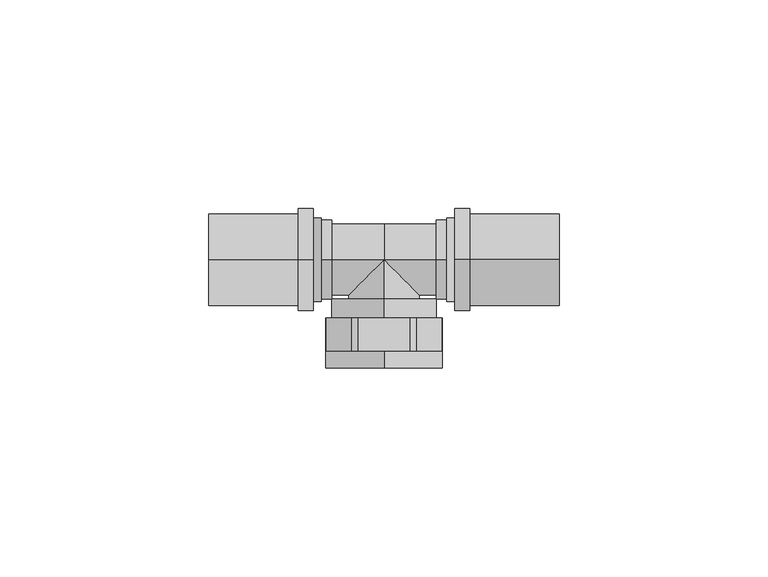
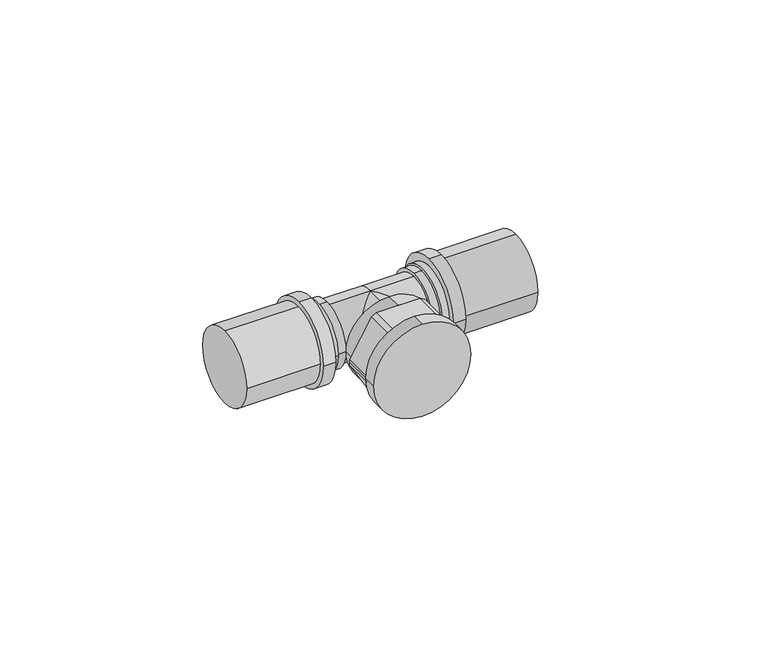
"""IFC4 building model written with IfcOpenShell, lengths in millimetres: pipe fitting geometry, HC-Kształtka-ParaForma-Tweetop-PERT-Trójnik_GW : Tweetop."""

from ifc_helpers import new_model, si_unit, point, frame, origin, origin_2d, place, context, project, spatial, circle_curve, ellipse_curve, trimmed, segment, composite_curve, outline, extrude, source, transform, mapped, element, save
from ifc_brep_helpers import plane_surface, cylinder_surface, advanced_brep


def pipe_fitting_013305a4(model_context):
    return source(origin(), model_context, "Body", "SolidModel", [
        advanced_brep(
        [(15.0, 10.0, 0.0), (15.0, -10.0, 0.0), (20.5, -12.25, 0.0), (20.5, 0.0, 12.25), (17.0, 0.0, 12.25), (17.0, -12.25, 0.0), (20.5, 12.25, 0.0), (20.5, 0.0, -12.25), (17.0, 0.0, -12.25), (17.0, 12.25, 0.0), (17.0, -10.0, 0.0), (17.0, 10.0, 0.0)],
        [
            (0, 1, circle_curve(frame((15.0, 0.0, 0.0), z_axis=(-1.0, 0.0, 0.0), x_axis=(0.0, 1.0000000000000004, 0.0)), 10.0)),
            (1, 0, circle_curve(frame((15.0, 0.0, 0.0), z_axis=(-1.0, 0.0, 0.0), x_axis=(0.0, 1.0000000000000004, 0.0)), 10.0)),
            (2, 3, circle_curve(frame((20.5, 0.0, 0.0), z_axis=(-1.0, 0.0, 0.0), x_axis=(0.0, 1.0000000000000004, 0.0)), 12.25)),
            (3, 4),
            (4, 5, circle_curve(frame((17.0, 0.0, 0.0), z_axis=(1.0, 0.0, 0.0), x_axis=(0.0, 1.0000000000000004, 0.0)), 12.25)),
            (5, 2),
            (6, 7, circle_curve(frame((20.5, 0.0, 0.0), z_axis=(-1.0, 0.0, 0.0), x_axis=(0.0, 1.0000000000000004, 0.0)), 12.25)),
            (7, 8),
            (8, 9, circle_curve(frame((17.0, 0.0, 0.0), z_axis=(1.0, 0.0, 0.0), x_axis=(0.0, 1.0000000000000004, 0.0)), 12.25)),
            (9, 6),
            (3, 6, circle_curve(frame((20.5, 0.0, 0.0), z_axis=(-1.0, 0.0, 0.0), x_axis=(0.0, 1.0000000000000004, 0.0)), 12.25)),
            (9, 4, circle_curve(frame((17.0, 0.0, 0.0), z_axis=(1.0, 0.0, 0.0), x_axis=(0.0, 1.0000000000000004, 0.0)), 12.25)),
            (7, 2, circle_curve(frame((20.5, 0.0, 0.0), z_axis=(-1.0, 0.0, 0.0), x_axis=(0.0, 1.0000000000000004, 0.0)), 12.25)),
            (5, 8, circle_curve(frame((17.0, 0.0, 0.0), z_axis=(1.0, 0.0, 0.0), x_axis=(0.0, 1.0000000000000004, 0.0)), 12.25)),
            (10, 11, circle_curve(frame((17.0, 0.0, 0.0), z_axis=(1.0, 0.0, 0.0), x_axis=(0.0, 1.0000000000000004, 0.0)), 10.0)),
            (11, 10, circle_curve(frame((17.0, 0.0, 0.0), z_axis=(1.0, 0.0, 0.0), x_axis=(0.0, 1.0000000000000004, 0.0)), 10.0)),
            (10, 1),
            (0, 11),
        ],
        [
            plane_surface(frame((15.0, 0.0, 0.0), z_axis=(-1.0, 0.0, 0.0), x_axis=(0.0, 0.0, 1.0))),
            cylinder_surface(frame((15.0, 0.0, 0.0), z_axis=(-1.0000000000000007, 0.0, 0.0), x_axis=(0.0, 1.0000000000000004, 0.0)), 12.25),
            plane_surface(frame((20.5, 0.0, 0.0), z_axis=(1.0, 0.0, 0.0), x_axis=(0.0, 0.0, 1.0))),
            plane_surface(frame((17.0, 0.0, 0.0), z_axis=(-1.0, 0.0, 0.0), x_axis=(0.0, 0.0, 1.0))),
            cylinder_surface(frame((15.0, 0.0, 0.0), z_axis=(1.0000000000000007, 0.0, 0.0), x_axis=(0.0, 1.0000000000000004, 0.0)), 10.0),
        ],
        [
            (0, [[1, 2]]),
            (1, [[3, 4, 5, 6]]),
            (1, [[7, 8, 9, 10]]),
            (1, [[11, -10, 12, -4]]),
            (1, [[13, -6, 14, -8]]),
            (2, [[-3, -13, -7, -11]]),
            (3, [[-5, -12, -9, -14], [15, 16]]),
            (4, [[-15, 17, -1, 18]]),
            (4, [[-16, -18, -2, -17]]),
        ],
    ),
        extrude(outline(composite_curve([segment(trimmed(circle_curve(origin_2d(), 10.95), [point((0.0, 10.95))], [point((10.95, 0.0))], False, "CARTESIAN"), True, "CONTINUOUS"), segment(trimmed(circle_curve(origin_2d(), 10.95), [point((10.95, 0.0))], [point((0.0, -10.95))], False, "CARTESIAN"), True, "CONTINUOUS"), segment(trimmed(circle_curve(origin_2d(), 10.95), [point((0.0, -10.95))], [point((-10.95, 0.0))], False, "CARTESIAN"), True, "CONTINUOUS"), segment(trimmed(circle_curve(origin_2d(), 10.95), [point((-10.95, 0.0))], [point((0.0, 10.95))], False, "CARTESIAN"), True, "CONTINUOUS")], self_intersect=False)), frame((20.5, 0.0, 0.0), z_axis=(1.0, 0.0, 0.0), x_axis=(0.0, 1.0, 0.0)), (0.0, 0.0, 1.0), 21.5),
        advanced_brep(
        [(6.3047601, -14.0, -12.5), (-6.3047601, -14.0, -12.5), (-7.6729375, -14.0, -11.7100824), (-13.9776976, -14.0, -0.7899176), (-14.0, -14.0, 0.0), (-13.9776976, -14.0, 0.7899176), (-7.6729375, -14.0, 11.7100824), (-6.3047601, -14.0, 12.5), (6.3047601, -14.0, 12.5), (7.6729375, -14.0, 11.7100824), (13.9776976, -14.0, 0.7899176), (14.0, -14.0, 0.0), (13.9776976, -14.0, -0.7899176), (7.6729375, -14.0, -11.7100824), (0.0, -22.0, -14.0), (-6.3047601, -22.0, -12.5), (6.3047601, -22.0, -12.5), (-7.6729375, -22.0, -11.7100824), (-13.9776976, -22.0, -0.7899176), (-13.9776976, -22.0, 0.7899176), (-7.6729375, -22.0, 11.7100824), (0.0, -22.0, 14.0), (6.3047601, -22.0, 12.5), (-6.3047601, -22.0, 12.5), (7.6729375, -22.0, 11.7100824), (13.9776976, -22.0, 0.7899176), (13.9776976, -22.0, -0.7899176), (7.6729375, -22.0, -11.7100824), (0.0, -26.0, 14.0), (-14.0, -26.0, 0.0), (0.0, -26.0, -14.0), (14.0, -26.0, 0.0), (-14.0, -22.0, 0.0), (14.0, -22.0, 0.0)],
        [
            (0, 1),
            (1, 2, circle_curve(frame((0.0, -14.0, 0.0), z_axis=(0.0, 1.0, 0.0), x_axis=(1.0000000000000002, 0.0, 0.0)), 14.0)),
            (2, 3),
            (3, 4, circle_curve(frame((0.0, -14.0, 0.0), z_axis=(0.0, 1.0, 0.0), x_axis=(1.0000000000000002, 0.0, 0.0)), 14.0)),
            (4, 5, circle_curve(frame((0.0, -14.0, 0.0), z_axis=(0.0, 1.0, 0.0), x_axis=(1.0000000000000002, 0.0, 0.0)), 14.0)),
            (5, 6),
            (6, 7, circle_curve(frame((0.0, -14.0, 0.0), z_axis=(0.0, 1.0, 0.0), x_axis=(1.0000000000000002, 0.0, 0.0)), 14.0)),
            (7, 8),
            (8, 9, circle_curve(frame((0.0, -14.0, 0.0), z_axis=(0.0, 1.0, 0.0), x_axis=(1.0000000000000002, 0.0, 0.0)), 14.0)),
            (9, 10),
            (10, 11, circle_curve(frame((0.0, -14.0, 0.0), z_axis=(0.0, 1.0, 0.0), x_axis=(1.0000000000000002, 0.0, 0.0)), 14.0)),
            (11, 12, circle_curve(frame((0.0, -14.0, 0.0), z_axis=(0.0, 1.0, 0.0), x_axis=(1.0000000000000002, 0.0, 0.0)), 14.0)),
            (12, 13),
            (13, 0, circle_curve(frame((0.0, -14.0, 0.0), z_axis=(0.0, 1.0, 0.0), x_axis=(1.0000000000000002, 0.0, 0.0)), 14.0)),
            (14, 15, circle_curve(frame((0.0, -22.0, 0.0), z_axis=(0.0, 1.0, 0.0), x_axis=(1.0000000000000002, 0.0, 0.0)), 14.0)),
            (15, 16),
            (16, 14, circle_curve(frame((0.0, -22.0, 0.0), z_axis=(0.0, 1.0, 0.0), x_axis=(1.0000000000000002, 0.0, 0.0)), 14.0)),
            (17, 18, circle_curve(frame((0.0, -22.0, 0.0), z_axis=(0.0, 1.0, 0.0), x_axis=(1.0000000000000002, 0.0, 0.0)), 14.0)),
            (18, 17),
            (19, 20, circle_curve(frame((0.0, -22.0, 0.0), z_axis=(0.0, 1.0, 0.0), x_axis=(1.0000000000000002, 0.0, 0.0)), 14.0)),
            (20, 19),
            (21, 22, circle_curve(frame((0.0, -22.0, 0.0), z_axis=(0.0, 1.0, 0.0), x_axis=(1.0000000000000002, 0.0, 0.0)), 14.0)),
            (22, 23),
            (23, 21, circle_curve(frame((0.0, -22.0, 0.0), z_axis=(0.0, 1.0, 0.0), x_axis=(1.0000000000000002, 0.0, 0.0)), 14.0)),
            (24, 25, circle_curve(frame((0.0, -22.0, 0.0), z_axis=(0.0, 1.0, 0.0), x_axis=(1.0000000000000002, 0.0, 0.0)), 14.0)),
            (25, 24),
            (26, 27, circle_curve(frame((0.0, -22.0, 0.0), z_axis=(0.0, 1.0, 0.0), x_axis=(1.0000000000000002, 0.0, 0.0)), 14.0)),
            (27, 26),
            (28, 29, circle_curve(frame((0.0, -26.0, 0.0), z_axis=(0.0, -1.0, 0.0), x_axis=(1.0000000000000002, 0.0, 0.0)), 14.0)),
            (29, 30, circle_curve(frame((0.0, -26.0, 0.0), z_axis=(0.0, -1.0, 0.0), x_axis=(1.0000000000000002, 0.0, 0.0)), 14.0)),
            (30, 31, circle_curve(frame((0.0, -26.0, 0.0), z_axis=(0.0, -1.0, 0.0), x_axis=(1.0000000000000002, 0.0, 0.0)), 14.0)),
            (31, 28, circle_curve(frame((0.0, -26.0, 0.0), z_axis=(0.0, -1.0, 0.0), x_axis=(1.0000000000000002, 0.0, 0.0)), 14.0)),
            (28, 21),
            (23, 20, circle_curve(frame((0.0, -22.0, 0.0), z_axis=(0.0, -1.0, 0.0), x_axis=(1.0000000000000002, 0.0, 0.0)), 14.0)),
            (19, 32, circle_curve(frame((0.0, -22.0, 0.0), z_axis=(0.0, -1.0, 0.0), x_axis=(1.0000000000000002, 0.0, 0.0)), 14.0)),
            (32, 29),
            (30, 14),
            (16, 27, circle_curve(frame((0.0, -22.0, 0.0), z_axis=(0.0, -1.0, 0.0), x_axis=(1.0000000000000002, 0.0, 0.0)), 14.0)),
            (26, 33, circle_curve(frame((0.0, -22.0, 0.0), z_axis=(0.0, -1.0, 0.0), x_axis=(1.0000000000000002, 0.0, 0.0)), 14.0)),
            (33, 31),
            (33, 25, circle_curve(frame((0.0, -22.0, 0.0), z_axis=(0.0, -1.0, 0.0), x_axis=(1.0000000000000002, 0.0, 0.0)), 14.0)),
            (24, 22, circle_curve(frame((0.0, -22.0, 0.0), z_axis=(0.0, -1.0, 0.0), x_axis=(1.0000000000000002, 0.0, 0.0)), 14.0)),
            (32, 18, circle_curve(frame((0.0, -22.0, 0.0), z_axis=(0.0, -1.0, 0.0), x_axis=(1.0000000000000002, 0.0, 0.0)), 14.0)),
            (17, 15, circle_curve(frame((0.0, -22.0, 0.0), z_axis=(0.0, -1.0, 0.0), x_axis=(1.0000000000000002, 0.0, 0.0)), 14.0)),
            (1, 15),
            (17, 2),
            (13, 27),
            (16, 0),
            (32, 4),
            (3, 18),
            (11, 33),
            (26, 12),
            (6, 20),
            (23, 7),
            (8, 22),
            (24, 9),
            (19, 5),
            (10, 25),
        ],
        [
            plane_surface(frame((0.0, -14.0, 0.0), z_axis=(0.0, 1.0, 0.0), x_axis=(0.0, 0.0, 1.0))),
            plane_surface(frame((0.0, -22.0, 0.0), z_axis=(0.0, 1.0, 0.0), x_axis=(0.0, 0.0, 1.0))),
            plane_surface(frame((0.0, -26.0, 0.0), z_axis=(0.0, -1.0, 0.0), x_axis=(0.0, 0.0, 1.0))),
            cylinder_surface(frame((0.0, -22.0, 0.0), z_axis=(0.0, 1.0000000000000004, 0.0), x_axis=(1.0000000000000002, 0.0, 0.0)), 14.0),
            cylinder_surface(frame((0.0, -14.0, 0.0), z_axis=(0.0, -1.0000000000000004, 0.0), x_axis=(1.0000000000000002, 0.0, 0.0)), 14.0),
            plane_surface(frame((7.2168784, -14.0, -12.5), z_axis=(0.0, 0.0, -1.0), x_axis=(0.0, -1.0, 0.0))),
            plane_surface(frame((-7.2168784, -14.0, -12.5), z_axis=(-0.8660254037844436, 0.0, -0.49999999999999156), x_axis=(0.0, -1.0, 0.0))),
            plane_surface(frame((-14.4337567, -14.0, 0.0), z_axis=(-0.8660254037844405, 0.0, 0.4999999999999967), x_axis=(0.0, -1.0, 0.0))),
            plane_surface(frame((-7.2168784, -14.0, 12.5), z_axis=(0.0, 0.0, 1.0), x_axis=(0.0, -1.0, 0.0))),
            plane_surface(frame((7.2168784, -14.0, 12.5), z_axis=(0.8660254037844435, 0.0, 0.49999999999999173), x_axis=(0.0, -1.0, 0.0))),
            plane_surface(frame((14.4337567, -14.0, 0.0), z_axis=(0.8660254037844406, 0.0, -0.4999999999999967), x_axis=(0.0, -1.0, 0.0))),
        ],
        [
            (0, [[1, 2, 3, 4, 5, 6, 7, 8, 9, 10, 11, 12, 13, 14]]),
            (1, [[15, 16, 17]]),
            (1, [[18, 19]]),
            (1, [[20, 21]]),
            (1, [[22, 23, 24]]),
            (1, [[25, 26]]),
            (1, [[27, 28]]),
            (2, [[29, 30, 31, 32]]),
            (3, [[-29, 33, -24, 34, -20, 35, 36]]),
            (3, [[-31, 37, -17, 38, -27, 39, 40]]),
            (3, [[-32, -40, 41, -25, 42, -22, -33]]),
            (3, [[-30, -36, 43, -18, 44, -15, -37]]),
            (4, [[-2, 45, -44, 46]]),
            (4, [[-14, 47, -38, 48]]),
            (4, [[49, -4, 50, -43]]),
            (4, [[51, -39, 52, -12]]),
            (4, [[-7, 53, -34, 54]]),
            (4, [[-9, 55, -42, 56]]),
            (4, [[-49, -35, 57, -5]]),
            (4, [[-51, -11, 58, -41]]),
            (5, [[-1, -48, -16, -45]]),
            (6, [[-3, -46, -19, -50]]),
            (7, [[-6, -57, -21, -53]]),
            (8, [[-8, -54, -23, -55]]),
            (9, [[-10, -56, -26, -58]]),
            (10, [[-13, -52, -28, -47]]),
        ],
    ),
        advanced_brep(
        [(-15.0, -10.0, 0.0), (-15.0, 10.0, 0.0), (-20.5, 12.25, 0.0), (-20.5, 0.0, 12.25), (-17.0, 0.0, 12.25), (-17.0, 12.25, 0.0), (-20.5, -12.25, 0.0), (-20.5, 0.0, -12.25), (-17.0, 0.0, -12.25), (-17.0, -12.25, 0.0), (-17.0, 10.0, 0.0), (-17.0, -10.0, 0.0)],
        [
            (0, 1, circle_curve(frame((-15.0, 0.0, 0.0), z_axis=(1.0, 0.0, 0.0), x_axis=(0.0, -1.0, 0.0)), 10.0)),
            (1, 0, circle_curve(frame((-15.0, 0.0, 0.0), z_axis=(1.0, 0.0, 0.0), x_axis=(0.0, -1.0, 0.0)), 10.0)),
            (2, 3, circle_curve(frame((-20.5, 0.0, 0.0), z_axis=(1.0, 0.0, 0.0), x_axis=(0.0, -1.0, 0.0)), 12.25)),
            (3, 4),
            (4, 5, circle_curve(frame((-17.0, 0.0, 0.0), z_axis=(-1.0, 0.0, 0.0), x_axis=(0.0, -1.0, 0.0)), 12.25)),
            (5, 2),
            (6, 7, circle_curve(frame((-20.5, 0.0, 0.0), z_axis=(1.0, 0.0, 0.0), x_axis=(0.0, -1.0, 0.0)), 12.25)),
            (7, 8),
            (8, 9, circle_curve(frame((-17.0, 0.0, 0.0), z_axis=(-1.0, 0.0, 0.0), x_axis=(0.0, -1.0, 0.0)), 12.25)),
            (9, 6),
            (3, 6, circle_curve(frame((-20.5, 0.0, 0.0), z_axis=(1.0, 0.0, 0.0), x_axis=(0.0, -1.0, 0.0)), 12.25)),
            (9, 4, circle_curve(frame((-17.0, 0.0, 0.0), z_axis=(-1.0, 0.0, 0.0), x_axis=(0.0, -1.0, 0.0)), 12.25)),
            (7, 2, circle_curve(frame((-20.5, 0.0, 0.0), z_axis=(1.0, 0.0, 0.0), x_axis=(0.0, -1.0, 0.0)), 12.25)),
            (5, 8, circle_curve(frame((-17.0, 0.0, 0.0), z_axis=(-1.0, 0.0, 0.0), x_axis=(0.0, -1.0, 0.0)), 12.25)),
            (10, 11, circle_curve(frame((-17.0, 0.0, 0.0), z_axis=(-1.0, 0.0, 0.0), x_axis=(0.0, -1.0, 0.0)), 10.0)),
            (11, 10, circle_curve(frame((-17.0, 0.0, 0.0), z_axis=(-1.0, 0.0, 0.0), x_axis=(0.0, -1.0, 0.0)), 10.0)),
            (10, 1),
            (0, 11),
        ],
        [
            plane_surface(frame((-15.0, 0.0, 0.0), z_axis=(1.0, 0.0, 0.0), x_axis=(0.0, 0.0, 1.0))),
            cylinder_surface(frame((-15.0, 0.0, 0.0), z_axis=(1.0, 0.0, 0.0), x_axis=(0.0, -1.0, 0.0)), 12.25),
            plane_surface(frame((-20.5, 0.0, 0.0), z_axis=(-1.0, 0.0, 0.0), x_axis=(0.0, 0.0, 1.0))),
            plane_surface(frame((-17.0, 0.0, 0.0), z_axis=(1.0, 0.0, 0.0), x_axis=(0.0, 0.0, 1.0))),
            cylinder_surface(frame((-15.0, 0.0, 0.0), z_axis=(-1.0, 0.0, 0.0), x_axis=(0.0, -1.0, 0.0)), 10.0),
        ],
        [
            (0, [[1, 2]]),
            (1, [[3, 4, 5, 6]]),
            (1, [[7, 8, 9, 10]]),
            (1, [[11, -10, 12, -4]]),
            (1, [[13, -6, 14, -8]]),
            (2, [[-3, -13, -7, -11]]),
            (3, [[-5, -12, -9, -14], [15, 16]]),
            (4, [[-15, 17, -1, 18]]),
            (4, [[-16, -18, -2, -17]]),
        ],
    ),
        extrude(outline(composite_curve([segment(trimmed(circle_curve(origin_2d(), 10.95), [point((0.0, 10.95))], [point((10.95, 0.0))], False, "CARTESIAN"), True, "CONTINUOUS"), segment(trimmed(circle_curve(origin_2d(), 10.95), [point((10.95, 0.0))], [point((0.0, -10.95))], False, "CARTESIAN"), True, "CONTINUOUS"), segment(trimmed(circle_curve(origin_2d(), 10.95), [point((0.0, -10.95))], [point((-10.95, 0.0))], False, "CARTESIAN"), True, "CONTINUOUS"), segment(trimmed(circle_curve(origin_2d(), 10.95), [point((-10.95, 0.0))], [point((0.0, 10.95))], False, "CARTESIAN"), True, "CONTINUOUS")], self_intersect=False)), frame((-42.0, 0.0, 0.0), z_axis=(1.0, 0.0, 0.0), x_axis=(0.0, 1.0, 0.0)), (0.0, 0.0, 1.0), 21.5),
        advanced_brep(
        [(-15.0, 0.0, 9.5), (-15.0, 9.5, 0.0), (-15.0, 0.0, -9.5), (-15.0, -9.5, 0.0), (-12.5, 0.0, 9.5), (-12.5, -9.5, 0.0), (-12.5, 0.0, -9.5), (-12.5, 9.5, 0.0), (-12.5, 0.0, 8.5), (-12.5, 8.5, 0.0), (-12.5, 0.0, -8.5), (-12.5, -8.5, 0.0), (12.5, 0.0, 9.5), (12.5, 9.5, 0.0), (12.5, 0.0, -9.5), (12.5, -9.5, 0.0), (12.5, 8.5, 0.0), (12.5, 0.0, 8.5), (12.5, -8.5, 0.0), (12.5, 0.0, -8.5), (15.0, 0.0, 9.5), (15.0, -9.5, 0.0), (15.0, 0.0, -9.5), (15.0, 9.5, 0.0), (0.0, -9.5, 12.5), (12.5, -9.5, 0.0), (0.0, -9.5, -12.5), (-12.5, -9.5, 0.0), (8.5, -9.5, 0.0), (0.0, -9.5, 8.5), (-8.5, -9.5, 0.0), (0.0, -9.5, -8.5), (0.0, -14.0, 12.5), (-12.5, -14.0, 0.0), (0.0, -14.0, -12.5), (12.5, -14.0, 0.0), (0.0, 0.0, 8.5), (0.0, 8.5, 0.0), (0.0, 0.0, -8.5), (-8.5, -8.5, 0.0), (8.5, -8.5, 0.0)],
        [
            (0, 1, circle_curve(frame((-15.0, 0.0, 0.0), z_axis=(-1.0, 0.0, 0.0), x_axis=(0.0, 1.0, 0.0)), 9.5)),
            (1, 2, circle_curve(frame((-15.0, 0.0, 0.0), z_axis=(-1.0, 0.0, 0.0), x_axis=(0.0, 1.0, 0.0)), 9.5)),
            (2, 3, circle_curve(frame((-15.0, 0.0, 0.0), z_axis=(-1.0, 0.0, 0.0), x_axis=(0.0, 1.0, 0.0)), 9.5)),
            (3, 0, circle_curve(frame((-15.0, 0.0, 0.0), z_axis=(-1.0, 0.0, 0.0), x_axis=(0.0, 1.0, 0.0)), 9.5)),
            (4, 5, circle_curve(frame((-12.5, 0.0, 0.0), z_axis=(1.0, 0.0, 0.0), x_axis=(0.0, 1.0, 0.0)), 9.5)),
            (5, 6, circle_curve(frame((-12.5, 0.0, 0.0), z_axis=(1.0, 0.0, 0.0), x_axis=(0.0, 1.0, 0.0)), 9.5)),
            (6, 7, circle_curve(frame((-12.5, 0.0, 0.0), z_axis=(1.0, 0.0, 0.0), x_axis=(0.0, 1.0, 0.0)), 9.5)),
            (7, 4, circle_curve(frame((-12.5, 0.0, 0.0), z_axis=(1.0, 0.0, 0.0), x_axis=(0.0, 1.0, 0.0)), 9.5)),
            (8, 9, circle_curve(frame((-12.5, 0.0, 0.0), z_axis=(-1.0, 0.0, 0.0), x_axis=(0.0, 1.0, 0.0)), 8.5)),
            (9, 10, circle_curve(frame((-12.5, 0.0, 0.0), z_axis=(-1.0, 0.0, 0.0), x_axis=(0.0, 1.0, 0.0)), 8.5)),
            (10, 11, circle_curve(frame((-12.5, 0.0, 0.0), z_axis=(-1.0, 0.0, 0.0), x_axis=(0.0, 1.0, 0.0)), 8.5)),
            (11, 8, circle_curve(frame((-12.5, 0.0, 0.0), z_axis=(-1.0, 0.0, 0.0), x_axis=(0.0, 1.0, 0.0)), 8.5)),
            (12, 13, circle_curve(frame((12.5, 0.0, 0.0), z_axis=(-1.0, 0.0, 0.0), x_axis=(0.0, 1.0, 0.0)), 9.5)),
            (13, 14, circle_curve(frame((12.5, 0.0, 0.0), z_axis=(-1.0, 0.0, 0.0), x_axis=(0.0, 1.0, 0.0)), 9.5)),
            (14, 15, circle_curve(frame((12.5, 0.0, 0.0), z_axis=(-1.0, 0.0, 0.0), x_axis=(0.0, 1.0, 0.0)), 9.5)),
            (15, 12, circle_curve(frame((12.5, 0.0, 0.0), z_axis=(-1.0, 0.0, 0.0), x_axis=(0.0, 1.0, 0.0)), 9.5)),
            (16, 17, circle_curve(frame((12.5, 0.0, 0.0), z_axis=(1.0, 0.0, 0.0), x_axis=(0.0, 1.0, 0.0)), 8.5)),
            (17, 18, circle_curve(frame((12.5, 0.0, 0.0), z_axis=(1.0, 0.0, 0.0), x_axis=(0.0, 1.0, 0.0)), 8.5)),
            (18, 19, circle_curve(frame((12.5, 0.0, 0.0), z_axis=(1.0, 0.0, 0.0), x_axis=(0.0, 1.0, 0.0)), 8.5)),
            (19, 16, circle_curve(frame((12.5, 0.0, 0.0), z_axis=(1.0, 0.0, 0.0), x_axis=(0.0, 1.0, 0.0)), 8.5)),
            (20, 21, circle_curve(frame((15.0, 0.0, 0.0), z_axis=(1.0, 0.0, 0.0), x_axis=(0.0, 1.0, 0.0)), 9.5)),
            (21, 22, circle_curve(frame((15.0, 0.0, 0.0), z_axis=(1.0, 0.0, 0.0), x_axis=(0.0, 1.0, 0.0)), 9.5)),
            (22, 23, circle_curve(frame((15.0, 0.0, 0.0), z_axis=(1.0, 0.0, 0.0), x_axis=(0.0, 1.0, 0.0)), 9.5)),
            (23, 20, circle_curve(frame((15.0, 0.0, 0.0), z_axis=(1.0, 0.0, 0.0), x_axis=(0.0, 1.0, 0.0)), 9.5)),
            (24, 25, circle_curve(frame((0.0, -9.5, 0.0), z_axis=(0.0, 1.0, 0.0), x_axis=(1.0, 0.0, 0.0)), 12.5)),
            (25, 26, circle_curve(frame((0.0, -9.5, 0.0), z_axis=(0.0, 1.0, 0.0), x_axis=(1.0, 0.0, 0.0)), 12.5)),
            (26, 27, circle_curve(frame((0.0, -9.5, 0.0), z_axis=(0.0, 1.0, 0.0), x_axis=(1.0, 0.0, 0.0)), 12.5)),
            (27, 24, circle_curve(frame((0.0, -9.5, 0.0), z_axis=(0.0, 1.0, 0.0), x_axis=(1.0, 0.0, 0.0)), 12.5)),
            (28, 29, circle_curve(frame((0.0, -9.5, 0.0), z_axis=(0.0, -1.0, 0.0), x_axis=(1.0, 0.0, 0.0)), 8.5)),
            (29, 30, circle_curve(frame((0.0, -9.5, 0.0), z_axis=(0.0, -1.0, 0.0), x_axis=(1.0, 0.0, 0.0)), 8.5)),
            (30, 31, circle_curve(frame((0.0, -9.5, 0.0), z_axis=(0.0, -1.0, 0.0), x_axis=(1.0, 0.0, 0.0)), 8.5)),
            (31, 28, circle_curve(frame((0.0, -9.5, 0.0), z_axis=(0.0, -1.0, 0.0), x_axis=(1.0, 0.0, 0.0)), 8.5)),
            (32, 33, circle_curve(frame((0.0, -14.0, 0.0), z_axis=(0.0, -1.0, 0.0), x_axis=(1.0, 0.0, 0.0)), 12.5)),
            (33, 34, circle_curve(frame((0.0, -14.0, 0.0), z_axis=(0.0, -1.0, 0.0), x_axis=(1.0, 0.0, 0.0)), 12.5)),
            (34, 35, circle_curve(frame((0.0, -14.0, 0.0), z_axis=(0.0, -1.0, 0.0), x_axis=(1.0, 0.0, 0.0)), 12.5)),
            (35, 32, circle_curve(frame((0.0, -14.0, 0.0), z_axis=(0.0, -1.0, 0.0), x_axis=(1.0, 0.0, 0.0)), 12.5)),
            (8, 36),
            (36, 37, circle_curve(frame((0.0, 0.0, 0.0), z_axis=(-1.0, 0.0, 0.0), x_axis=(0.0, 1.0, 0.0)), 8.5)),
            (37, 9),
            (37, 38, circle_curve(frame((0.0, 0.0, 0.0), z_axis=(-1.0, 0.0, 0.0), x_axis=(0.0, 1.0, 0.0)), 8.5)),
            (38, 10),
            (38, 39, ellipse_curve(frame((0.0, 0.0, 0.0), z_axis=(-0.7071067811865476, 0.7071067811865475, 0.0), x_axis=(-0.7071067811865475, -0.7071067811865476, 0.0)), 12.0208153, 8.5)),
            (39, 11),
            (39, 36, ellipse_curve(frame((0.0, 0.0, 0.0), z_axis=(-0.7071067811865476, 0.7071067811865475, 0.0), x_axis=(-0.7071067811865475, -0.7071067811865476, 0.0)), 12.0208153, 8.5)),
            (0, 4),
            (7, 1),
            (6, 2),
            (5, 3),
            (12, 20),
            (23, 13),
            (22, 14),
            (21, 15),
            (36, 17),
            (16, 37),
            (19, 38),
            (18, 40),
            (40, 38, ellipse_curve(frame((0.0, 0.0, 0.0), z_axis=(0.7071067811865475, 0.7071067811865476, 0.0), x_axis=(-0.7071067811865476, 0.7071067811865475, 0.0)), 12.0208153, 8.5)),
            (36, 40, ellipse_curve(frame((0.0, 0.0, 0.0), z_axis=(0.7071067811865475, 0.7071067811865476, 0.0), x_axis=(-0.7071067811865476, 0.7071067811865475, 0.0)), 12.0208153, 8.5)),
            (24, 32),
            (35, 25),
            (34, 26),
            (33, 27),
            (36, 29),
            (28, 40),
            (31, 38),
            (30, 39),
        ],
        [
            plane_surface(frame((-15.0, 0.0, 0.0), z_axis=(-1.0, 0.0, 0.0), x_axis=(0.0, 0.0, 1.0))),
            plane_surface(frame((-12.5, 0.0, 0.0), z_axis=(1.0, 0.0, 0.0), x_axis=(0.0, 0.0, 1.0))),
            plane_surface(frame((12.5, 0.0, 0.0), z_axis=(-1.0, 0.0, 0.0), x_axis=(0.0, 0.0, 1.0))),
            plane_surface(frame((15.0, 0.0, 0.0), z_axis=(1.0, 0.0, 0.0), x_axis=(0.0, 0.0, 1.0))),
            plane_surface(frame((0.0, -9.5, 0.0), z_axis=(0.0, 1.0, 0.0), x_axis=(0.0, 0.0, 1.0))),
            plane_surface(frame((0.0, -14.0, 0.0), z_axis=(0.0, -1.0, 0.0), x_axis=(0.0, 0.0, 1.0))),
            cylinder_surface(frame((-12.5, 0.0, 0.0), z_axis=(-1.0, 0.0, 0.0), x_axis=(0.0, 1.0, 0.0)), 8.5),
            cylinder_surface(frame((-15.0, 0.0, 0.0), z_axis=(-1.0, 0.0, 0.0), x_axis=(0.0, 1.0, 0.0)), 9.5),
            cylinder_surface(frame((12.5, 0.0, 0.0), z_axis=(-1.0, 0.0, 0.0), x_axis=(0.0, 1.0, 0.0)), 9.5),
            cylinder_surface(frame((0.0, 0.0, 0.0), z_axis=(-1.0, 0.0, 0.0), x_axis=(0.0, 1.0, 0.0)), 8.5),
            cylinder_surface(frame((0.0, -9.5, 0.0), z_axis=(0.0, 1.0, 0.0), x_axis=(1.0, 0.0, 0.0)), 12.5),
            cylinder_surface(frame((0.0, 0.0, 0.0), z_axis=(0.0, 1.0, 0.0), x_axis=(1.0, 0.0, 0.0)), 8.5),
        ],
        [
            (0, [[1, 2, 3, 4]]),
            (1, [[5, 6, 7, 8], [9, 10, 11, 12]]),
            (2, [[13, 14, 15, 16], [17, 18, 19, 20]]),
            (3, [[21, 22, 23, 24]]),
            (4, [[25, 26, 27, 28], [29, 30, 31, 32]]),
            (5, [[33, 34, 35, 36]]),
            (6, [[37, 38, 39, -9]]),
            (6, [[-39, 40, 41, -10]]),
            (6, [[-41, 42, 43, -11]]),
            (6, [[-37, -12, -43, 44]]),
            (7, [[-1, 45, -8, 46]]),
            (7, [[-2, -46, -7, 47]]),
            (7, [[-3, -47, -6, 48]]),
            (7, [[-4, -48, -5, -45]]),
            (8, [[-13, 49, -24, 50]]),
            (8, [[-14, -50, -23, 51]]),
            (8, [[-15, -51, -22, 52]]),
            (8, [[-16, -52, -21, -49]]),
            (9, [[53, -17, 54, -38]]),
            (9, [[-54, -20, 55, -40]]),
            (9, [[-55, -19, 56, 57]]),
            (9, [[-53, 58, -56, -18]]),
            (10, [[-25, 59, -36, 60]]),
            (10, [[-26, -60, -35, 61]]),
            (10, [[-27, -61, -34, 62]]),
            (10, [[-28, -62, -33, -59]]),
            (11, [[63, -29, 64, -58]]),
            (11, [[65, -57, -64, -32]]),
            (11, [[-65, -31, 66, -42]]),
            (11, [[-63, -44, -66, -30]]),
        ],
    ),
    ])


if __name__ == "__main__":
    model = new_model("IFC4")
    model_context = context("Model", 3, world=origin())
    ifc_project = project(units=[si_unit("LENGTHUNIT", "METRE", prefix="MILLI")], contexts=[model_context])
    site = spatial("IfcSite", under=ifc_project)
    building = spatial("IfcBuilding", under=site)
    placement = place(None, origin())
    pipe_fitting_shape = pipe_fitting_013305a4(model_context)
    element("IfcPipeFitting", 1, ObjectType="HC-Kształtka-ParaForma-Tweetop-PERT-Trójnik_GW : Tweetop", at=placement, inside=building, context=model_context, shape_type="MappedRepresentation", body=[
        mapped(pipe_fitting_shape, transform((0.0, 0.0, 0.0), x_axis=(1.0, 0.0, 0.0), y_axis=(0.0, 1.0, 0.0), z_axis=(0.0, 0.0, 1.0))),
    ])
    save(model, "model.ifc")
